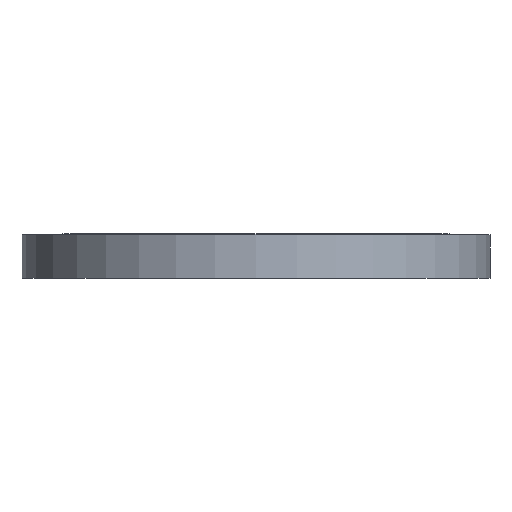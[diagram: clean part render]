
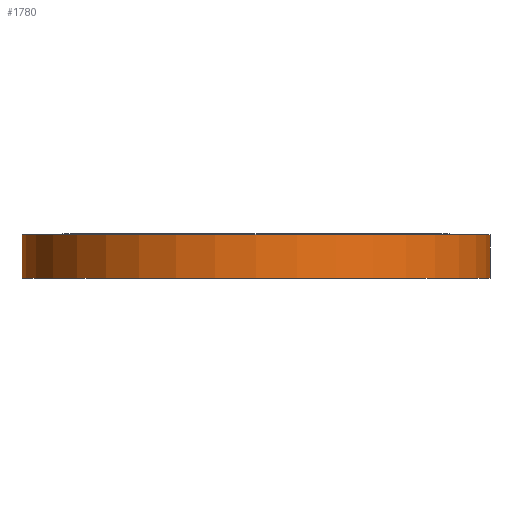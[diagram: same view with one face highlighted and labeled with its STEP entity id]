
A CAD part, front view. The second image highlights one B-rep face of the part: STEP entity #1780.
In plain terms, the highlighted cylindrical face has radius 445 mm (diameter 890 mm), a partial arc.
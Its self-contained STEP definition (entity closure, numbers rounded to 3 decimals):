
#1 = CARTESIAN_POINT ( 'NONE',  ( 445., 0., -84. ) ) ;
#68 = CARTESIAN_POINT ( 'NONE',  ( 445., 0., -2. ) ) ;
#90 = DIRECTION ( 'NONE',  ( -1., 0., 0. ) ) ;
#91 = DIRECTION ( 'NONE',  ( 0., 0., -1. ) ) ;
#93 = CIRCLE ( 'NONE', #1808, 445. ) ;
#94 = CARTESIAN_POINT ( 'NONE',  ( 0., 0., -2. ) ) ;
#243 = DIRECTION ( 'NONE',  ( 0., 0., 1. ) ) ;
#244 = CARTESIAN_POINT ( 'NONE',  ( 445., 0., -150. ) ) ;
#246 = LINE ( 'NONE', #244, #1843 ) ;
#399 = DIRECTION ( 'NONE',  ( 0., 0., 1. ) ) ;
#400 = CARTESIAN_POINT ( 'NONE',  ( -445., 0., -150. ) ) ;
#401 = LINE ( 'NONE', #400, #1252 ) ;
#404 = FACE_OUTER_BOUND ( 'NONE', #1683, .T. ) ;
#429 = CARTESIAN_POINT ( 'NONE',  ( -445., 0., -84. ) ) ;
#539 = CARTESIAN_POINT ( 'NONE',  ( -445., 0., -2. ) ) ;
#650 = DIRECTION ( 'NONE',  ( -1., 0., 0. ) ) ;
#651 = DIRECTION ( 'NONE',  ( 0., 0., -1. ) ) ;
#652 = CARTESIAN_POINT ( 'NONE',  ( 0., 0., -84. ) ) ;
#833 = AXIS2_PLACEMENT_3D ( 'NONE', #1562, #1576, #1704 ) ;
#875 = EDGE_CURVE ( 'NONE', #1764, #1210, #1202, .T. ) ;
#900 = AXIS2_PLACEMENT_3D ( 'NONE', #652, #651, #650 ) ;
#1038 = VERTEX_POINT ( 'NONE', #539 ) ;
#1202 = CIRCLE ( 'NONE', #900, 445. ) ;
#1210 = VERTEX_POINT ( 'NONE', #429 ) ;
#1252 = VECTOR ( 'NONE', #399, 1000. ) ;
#1279 = EDGE_CURVE ( 'NONE', #1210, #1038, #401, .T. ) ;
#1335 = ORIENTED_EDGE ( 'NONE', *, *, #1650, .T. ) ;
#1337 = ORIENTED_EDGE ( 'NONE', *, *, #1500, .T. ) ;
#1339 = ORIENTED_EDGE ( 'NONE', *, *, #875, .F. ) ;
#1341 = ORIENTED_EDGE ( 'NONE', *, *, #1279, .F. ) ;
#1500 = EDGE_CURVE ( 'NONE', #1764, #1671, #246, .T. ) ;
#1557 = CYLINDRICAL_SURFACE ( 'NONE', #833, 445. ) ;
#1562 = CARTESIAN_POINT ( 'NONE',  ( 0., 0., -150. ) ) ;
#1576 = DIRECTION ( 'NONE',  ( 0., 0., 1. ) ) ;
#1650 = EDGE_CURVE ( 'NONE', #1671, #1038, #93, .T. ) ;
#1671 = VERTEX_POINT ( 'NONE', #68 ) ;
#1683 = EDGE_LOOP ( 'NONE', ( #1341, #1339, #1337, #1335 ) ) ;
#1704 = DIRECTION ( 'NONE',  ( 1., 0., 0. ) ) ;
#1764 = VERTEX_POINT ( 'NONE', #1 ) ;
#1780 = ADVANCED_FACE ( 'NONE', ( #404 ), #1557, .T. ) ;
#1808 = AXIS2_PLACEMENT_3D ( 'NONE', #94, #91, #90 ) ;
#1843 = VECTOR ( 'NONE', #243, 1000. ) ;
